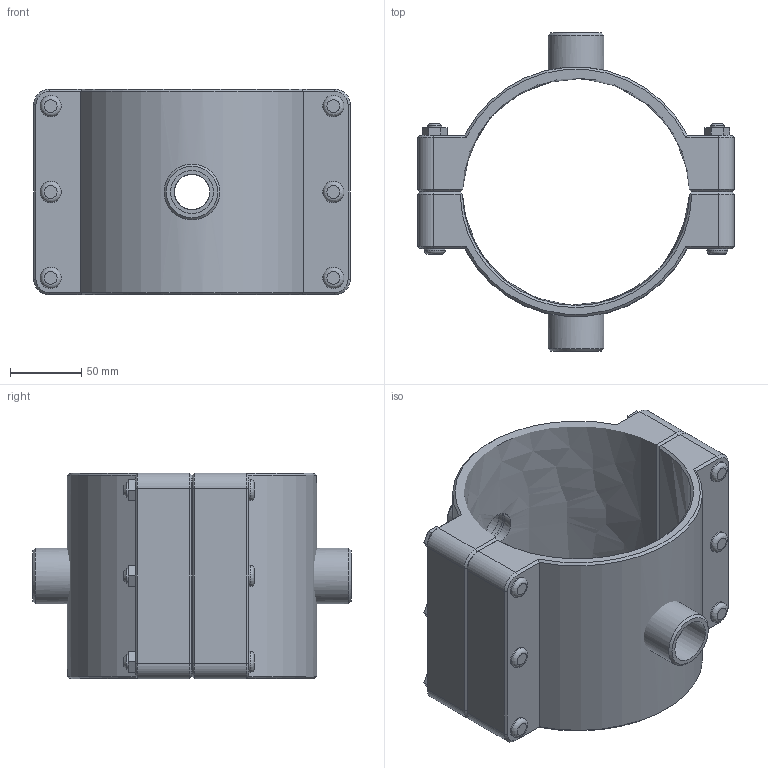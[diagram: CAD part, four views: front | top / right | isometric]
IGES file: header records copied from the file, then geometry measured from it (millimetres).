
Global section: file name: 161760160010_161860160010.ipt; native system: Autodesk Inventor 2015; preprocessor: unknown; author: KIM; date: 20170618.093805; units: millimetre
Bounding box: 223 x 224 x 145 mm (x, y, z)
Volume: 1247377.7 mm3; surface area: 215072.7 mm2
Topology: 3 solids, 3 shells, 179 faces, 416 edges, 265 vertices
Faces by surface type: plane 102, cylinder 30, cone 28, revolution 19
Full cylindrical faces by diameter (mm): 10 x6, 15 x12, 39.378 x2
